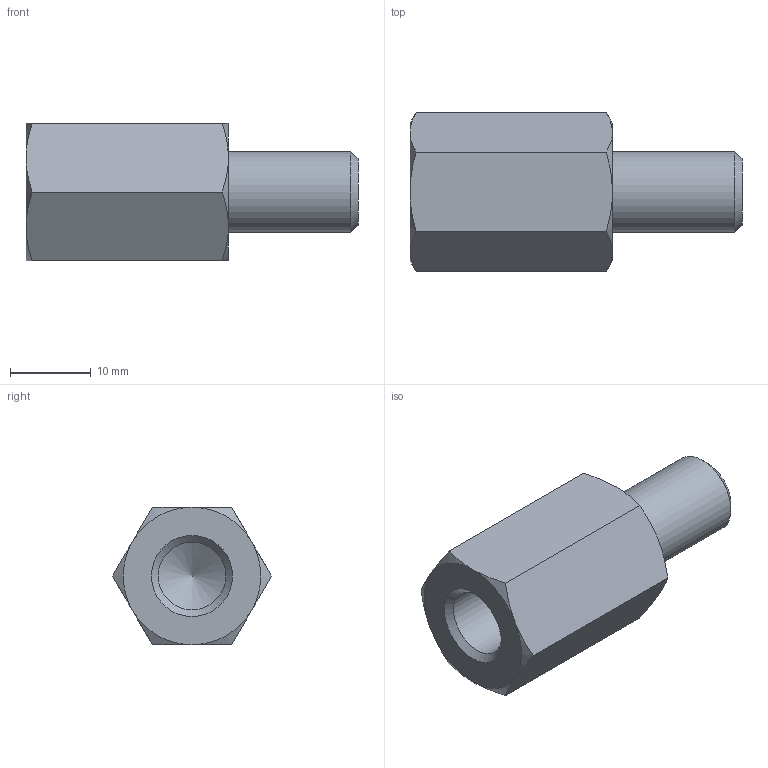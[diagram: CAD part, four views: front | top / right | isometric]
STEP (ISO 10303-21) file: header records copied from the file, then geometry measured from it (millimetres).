
FILE_DESCRIPTION( ( 'STEP AP203' ), '1' );
FILE_NAME( 'C:/Temp/Ganter_Step_05_03_2020/data/3_2/gn6220/gn6220_ni/Stainless Steel-Spacer GN 6220-NI-M10-25-B.stp', '2020-03-13T05:43:20', ( 'License CC BY-ND 4.0' ), ( 'CADENAS' ), ' ', 'PARTsolutions', ' ' );
FILE_SCHEMA( ( 'CONFIG_CONTROL_DESIGN' ) );
Length unit declared in the file: millimetre
Products named in the file (1): _Stainless Steel-Spacer GN 6220-NI-M10-25-B
Bounding box: 41 x 19.63 x 17 mm (x, y, z)
Volume: 6041 mm3; surface area: 3097.2 mm2
Topology: 1 solids, 1 shells, 26 faces, 55 edges, 32 vertices
Faces by surface type: cone 15, plane 9, cylinder 2
Full cylindrical faces by diameter (mm): 8.376 x1, 10 x1
Entity records: 778 total; most frequent: CARTESIAN_POINT 242, DIRECTION 96, ORIENTED_EDGE 96, EDGE_CURVE 48, AXIS2_PLACEMENT_3D 45, EDGE_LOOP 32, VERTEX_POINT 31, FACE_OUTER_BOUND 28
